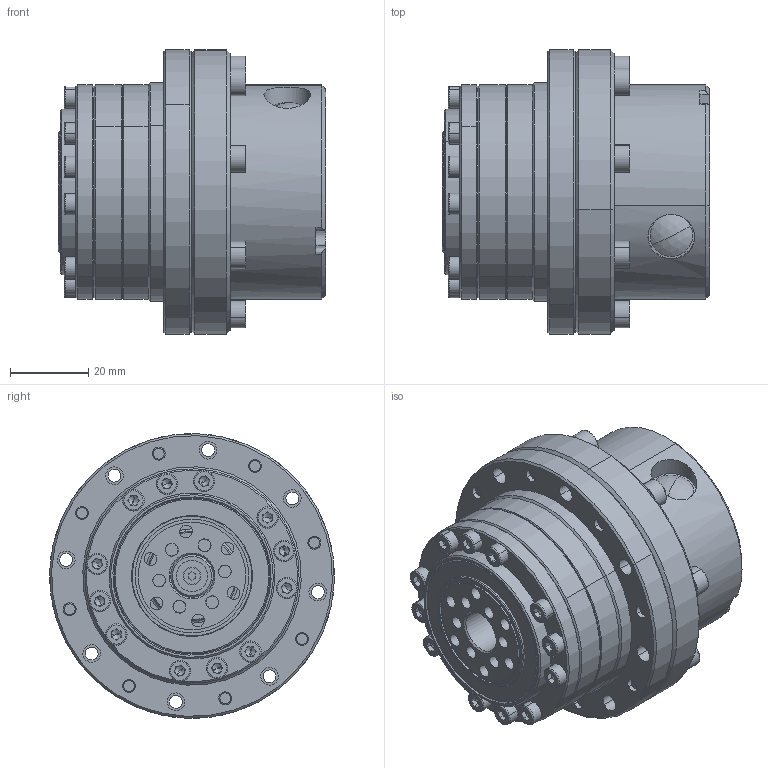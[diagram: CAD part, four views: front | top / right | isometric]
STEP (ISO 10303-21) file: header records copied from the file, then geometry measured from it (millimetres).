
FILE_DESCRIPTION (( 'STEP AP203' ), '1' );
FILE_NAME ('LCSG-14-XXX-RDB-8-25-30-45-M3.STEP', '2024-05-14T02:58:44', ( '' ), ( '' ), 'SwSTEP 2.0', 'SolidWorks 2020', '' );
FILE_SCHEMA (( 'CONFIG_CONTROL_DESIGN' ));
Length unit declared in the file: millimetre
Products named in the file (32):  LCS-14-P04-2^LCS-14-P04_LCSG-14-XXX-C-I-S0(2); LCSG-14-XXX-C-I-S0(2); GB／T70．1-2000内六角圆柱头螺钉M3×10(12．9级); RZC-14G______^________RZC-14G_LCSG-14-XXX-C-I-S0(2); LCSG-14-XXX-P07A-RDB 萇儂蟀諉楊擘; ________________M3 x 16_________________M3 x 16^LCSG-14-XXX-C-I-S0(2); LCS-14-XXX-P01^LCSG-14-XXX-C-I-S0(2); LCSG-14-P02^LCSG-14-XXX-C-I-S0(2); LCSG-14-XXX-P05-RDF 菜え; socket head cap screw_din_________________M3 x 10^LCS-14-P04_LCSG-14-XXX-C-I-S0(2); GB／T276-94深沟球轴承61902-2RZ(GCr4); LCSG-14-XXX-C-I-S0; GB／T70．1-2000内六角圆柱头螺钉M2．5×6(12．9级);  LCS-14-P04-1^LCS-14-P04_LCSG-14-XXX-C-I-S0(2); 15Z-30405^LCS-14-P04_LCSG-14-XXX-C-I-S0(2); DB-14-I^LCSG-14-XXX-C-I-S0(2); LCSG-14-XXX-P06-RDB 蛌諉粣; LCS-14-P04^LCSG-14-XXX-C-I-S0(2); ________________M4 x 12_________________M4 x 12^LCSG-14-XXX-C-I-S0(2); 尼龙扣式塞头，开孔8mm（淘宝）; GB／T1096-1979普通平键C型3×8(45钢); LHS-14-XXX-P03-I-S0; TBP06_14-禊磁湛; LCS-14-P05^LCSG-14-XXX-C-I-S0(2); GB／T93-1987标准型弹性垫圈(装配)3×0．8(65Mn); LCS-14-P04-3^LCS-14-P04_LCSG-14-XXX-C-I-S0(2); GB／T70．1-2000内六角圆柱头螺钉M4×16(12．9级); ________RZC-14G^LCSG-14-XXX-C-I-S0(2); TBP16_28-禊磁湛; ______________M2 x 4_ISO 7046-1 - M2 x 4 - Z --- 4N^LCSG-14-XXX-C-I-S0(2); RZC-14G______+____^________RZC-14G_LCSG-14-XXX-C-I-S0(2); LCSG-14-XXX-RDB-8-25-30-45-M3
Assembly tree (59 placements, depth 5):
  LCSG-14-XXX-RDB-8-25-30-45-M3
    LCSG-14-XXX-C-I-S0
      LCSG-14-XXX-C-I-S0(2)
        ________RZC-14G^LCSG-14-XXX-C-I-S0(2)
          RZC-14G______+____^________RZC-14G_LCSG-14-XXX-C-I-S0(2)
          RZC-14G______^________RZC-14G_LCSG-14-XXX-C-I-S0(2)
        LCS-14-P04^LCSG-14-XXX-C-I-S0(2)
          LCS-14-P04-3^LCS-14-P04_LCSG-14-XXX-C-I-S0(2)
           LCS-14-P04-1^LCS-14-P04_LCSG-14-XXX-C-I-S0(2)
           LCS-14-P04-2^LCS-14-P04_LCSG-14-XXX-C-I-S0(2)
          socket head cap screw_din_________________M3 x 10^LCS-14-P04_LCSG-14-XXX-C-I-S0(2)  x4
          15Z-30405^LCS-14-P04_LCSG-14-XXX-C-I-S0(2)
        LHS-14-XXX-P03-I-S0
        DB-14-I^LCSG-14-XXX-C-I-S0(2)
        ______________M2 x 4_ISO 7046-1 - M2 x 4 - Z --- 4N^LCSG-14-XXX-C-I-S0(2)  x4
        LCS-14-XXX-P01^LCSG-14-XXX-C-I-S0(2)
        LCSG-14-P02^LCSG-14-XXX-C-I-S0(2)
        ________________M3 x 16_________________M3 x 16^LCSG-14-XXX-C-I-S0(2)  x8
        LCS-14-P05^LCSG-14-XXX-C-I-S0(2)
        ________________M4 x 12_________________M4 x 12^LCSG-14-XXX-C-I-S0(2)  x6
    LCSG-14-XXX-P07A-RDB 萇儂蟀諉楊擘
    LCSG-14-XXX-P06-RDB 蛌諉粣
    LCSG-14-XXX-P05-RDF 菜え
    GB／T70．1-2000内六角圆柱头螺钉M2．5×6(12．9级)
    GB／T276-94深沟球轴承61902-2RZ(GCr4)
    TBP16_28-禊磁湛
    GB／T70．1-2000内六角圆柱头螺钉M4×16(12．9级)  x8
    TBP06_14-禊磁湛
    GB／T1096-1979普通平键C型3×8(45钢)
    尼龙扣式塞头，开孔8mm（淘宝）  x2
    GB／T70．1-2000内六角圆柱头螺钉M3×10(12．9级)  x2
    GB／T93-1987标准型弹性垫圈(装配)3×0．8(65Mn)  x2
Bounding box: 68.5 x 72.94 x 72.94 mm (x, y, z)
Volume: 150175.2 mm3; surface area: 86853.6 mm2
Topology: 79 solids, 79 shells, 2015 faces, 4873 edges, 2966 vertices
Faces by surface type: plane 672, cylinder 660, cone 292, torus 215, sphere 176
Entity records: 46355 total; most frequent: CARTESIAN_POINT 9911, DIRECTION 7431, ORIENTED_EDGE 6318, AXIS2_PLACEMENT_3D 3215, EDGE_CURVE 3159, VERTEX_POINT 2020, CIRCLE 1848, EDGE_LOOP 1635
